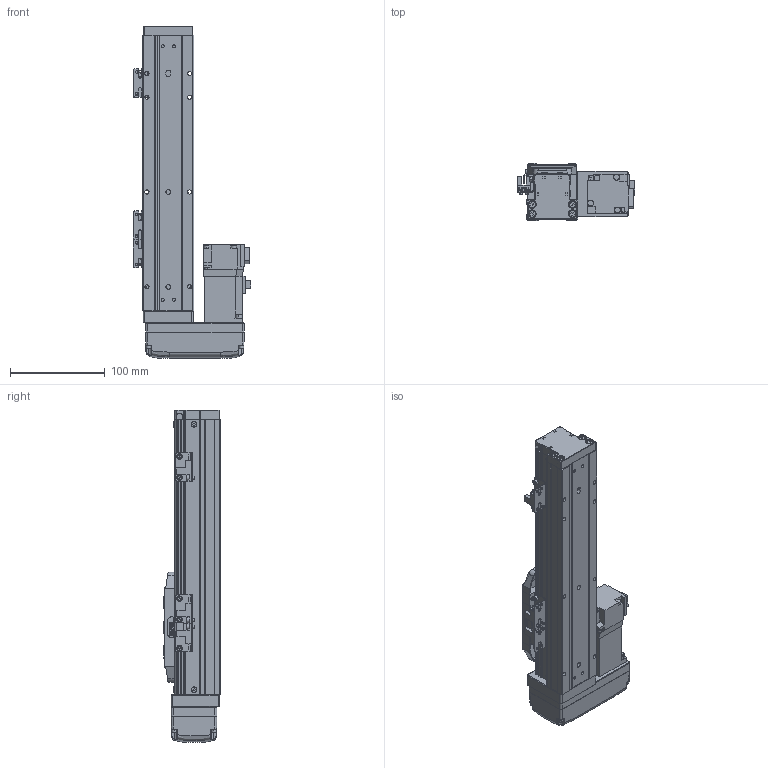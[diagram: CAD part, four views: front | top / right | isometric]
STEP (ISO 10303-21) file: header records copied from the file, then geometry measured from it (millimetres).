
FILE_DESCRIPTION (( 'STEP AP203' ), '1' );
FILE_NAME ('GTH5-150-BR-M10-C4.step', '2022-09-23T00:50:09', ( '微软用户' ), ( '微软中国' ), 'SwSTEP 2.0', 'SolidWorks 2020', '' );
FILE_SCHEMA (( 'CONFIG_CONTROL_DESIGN' ));
Length unit declared in the file: millimetre
Products named in the file (19): GBT 70.1-M3℅6; GTH50-027-1_BTHA50-027-2; BTH-M3X5X6; GBT96.1-2002 3×0.8; GTH50-026; GTH50-001_150; GTH50-024; GTH5-150-BR-M10-C4; GBT 70.1-M4×16; GBT 70.1-M2.5×6; GTH50-003; GTH50-028; GTH50-006; GTH50-013; GTH50-022-1; GTH50-004; GTH50-023; HG-KR13; GBT 70.3-M3℅6
Assembly tree (57 placements, depth 2):
  GTH5-150-BR-M10-C4
    GTH50-006
    GTH50-004
    GBT 70.3-M3℅6  x4
    BTH-M3X5X6  x8
    GTH50-001_150
    GBT 70.1-M4×16  x8
    GTH50-003
    GTH50-013
    GTH50-023  x3
    GBT 70.1-M3℅6  x12
    GBT96.1-2002 3×0.8  x6
    GTH50-024  x3
    GBT 70.1-M2.5×6  x2
    GTH50-028  x2
    GTH50-022-1
    HG-KR13
    GTH50-027-1_BTHA50-027-2
    GTH50-026
Bounding box: 123.6 x 60 x 350 mm (x, y, z)
Volume: 896654.2 mm3; surface area: 195533.6 mm2
Topology: 59 solids, 59 shells, 2144 faces, 4968 edges, 3044 vertices
Faces by surface type: plane 1142, cylinder 573, cone 219, torus 162, bspline 40, sphere 8
Entity records: 39568 total; most frequent: CARTESIAN_POINT 7851, DIRECTION 6073, ORIENTED_EDGE 5850, EDGE_CURVE 2925, AXIS2_PLACEMENT_3D 2104, LINE 1865, VECTOR 1865, VERTEX_POINT 1846
